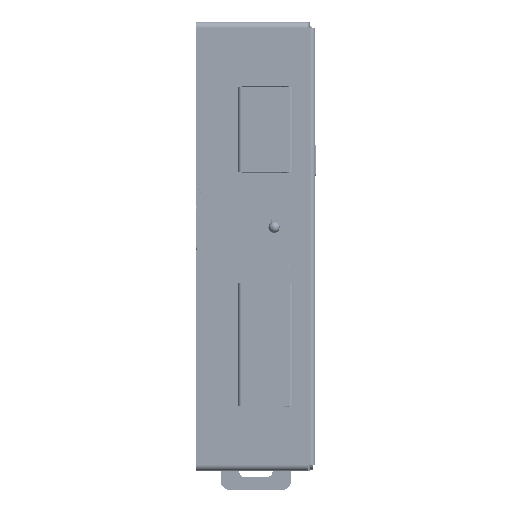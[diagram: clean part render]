
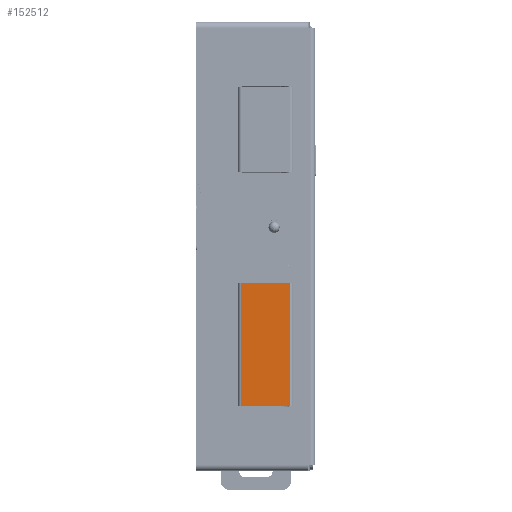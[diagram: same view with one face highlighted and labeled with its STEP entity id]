
A CAD part, top view. The second image highlights one B-rep face of the part: STEP entity #152512.
In plain terms, the highlighted planar face has unit normal (0, 0, 1) as drawn and (0, 1, 0) by its records, which use the part's own axes.
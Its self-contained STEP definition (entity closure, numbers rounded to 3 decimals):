
#150633=DIRECTION('',(-1.,0.,0.));
#150634=VECTOR('',#150633,13.);
#150635=CARTESIAN_POINT('',(6.5,4.9,0.));
#150636=LINE('',#150635,#150634);
#150818=DIRECTION('',(-1.,0.,0.));
#150819=VECTOR('',#150818,13.);
#150820=CARTESIAN_POINT('',(6.5,4.9,-33.));
#150821=LINE('',#150820,#150819);
#151546=DIRECTION('',(0.,0.,-1.));
#151547=VECTOR('',#151546,33.);
#151548=CARTESIAN_POINT('',(-6.5,4.9,0.));
#151549=LINE('',#151548,#151547);
#151553=DIRECTION('',(0.,0.,-1.));
#151554=VECTOR('',#151553,33.);
#151555=CARTESIAN_POINT('',(6.5,4.9,0.));
#151556=LINE('',#151555,#151554);
#151608=CARTESIAN_POINT('',(-6.5,4.9,-33.));
#151610=VERTEX_POINT('',#151608);
#151611=CARTESIAN_POINT('',(-6.5,4.9,0.));
#151612=VERTEX_POINT('',#151611);
#151615=CARTESIAN_POINT('',(6.5,4.9,0.));
#151616=VERTEX_POINT('',#151615);
#151617=CARTESIAN_POINT('',(6.5,4.9,-33.));
#151618=VERTEX_POINT('',#151617);
#152501=CARTESIAN_POINT('',(7.5,4.9,0.));
#152502=DIRECTION('',(0.,1.,0.));
#152503=DIRECTION('',(-1.,0.,0.));
#152504=AXIS2_PLACEMENT_3D('',#152501,#152502,#152503);
#152505=PLANE('',#152504);
#152506=ORIENTED_EDGE('',*,*,#151822,.T.);
#152507=ORIENTED_EDGE('',*,*,#151860,.F.);
#152508=ORIENTED_EDGE('',*,*,#152496,.F.);
#152509=ORIENTED_EDGE('',*,*,#151786,.T.);
#152510=EDGE_LOOP('',(#152506,#152507,#152508,#152509));
#152511=FACE_OUTER_BOUND('',#152510,.F.);
#151786=EDGE_CURVE('',#151616,#151612,#150636,.T.);
#151822=EDGE_CURVE('',#151612,#151610,#151549,.T.);
#151860=EDGE_CURVE('',#151618,#151610,#150821,.T.);
#152496=EDGE_CURVE('',#151616,#151618,#151556,.T.);
#152512=ADVANCED_FACE('',(#152511),#152505,.T.);
